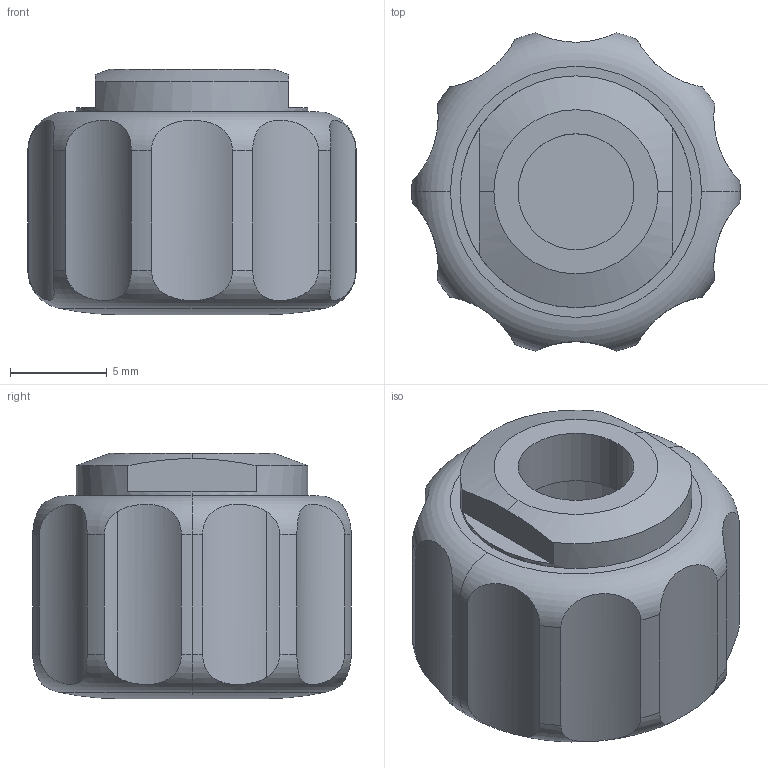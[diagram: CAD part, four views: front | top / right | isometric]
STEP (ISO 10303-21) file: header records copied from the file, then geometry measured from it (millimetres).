
FILE_DESCRIPTION (( 'STEP AP203' ), '1' );
FILE_NAME ('Easyknob Dummy M5.step', '2015-01-22T09:35:01', ( 'ThinkStation' ), ( '' ), 'SwSTEP 2.0', 'SolidWorks 2015', '' );
FILE_SCHEMA (( 'CONFIG_CONTROL_DESIGN' ));
Length unit declared in the file: millimetre
Products named in the file (1): Easyknob Dummy M5
Bounding box: 17 x 16.48 x 12.7 mm (x, y, z)
Volume: 1579 mm3; surface area: 1383.1 mm2
Topology: 1 solids, 1 shells, 46 faces, 119 edges, 78 vertices
Faces by surface type: cylinder 29, plane 9, torus 6, cone 2
Entity records: 1982 total; most frequent: CARTESIAN_POINT 780, DIRECTION 239, ORIENTED_EDGE 238, EDGE_CURVE 119, AXIS2_PLACEMENT_3D 101, VERTEX_POINT 78, CIRCLE 54, EDGE_LOOP 49
